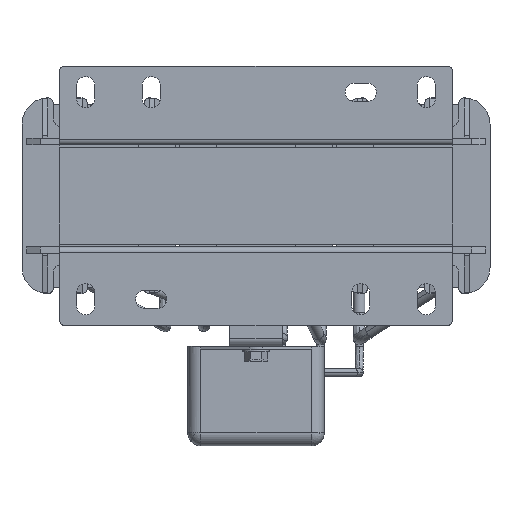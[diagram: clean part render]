
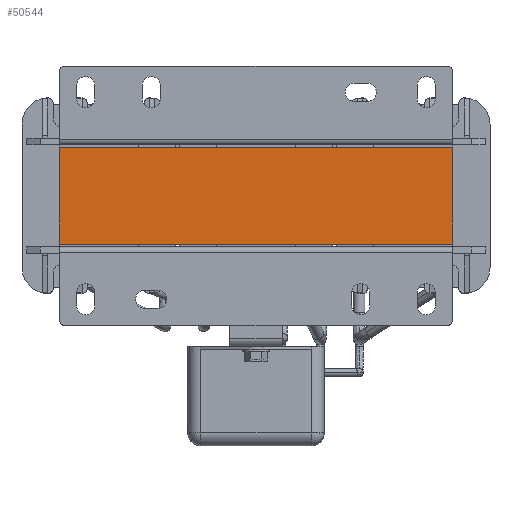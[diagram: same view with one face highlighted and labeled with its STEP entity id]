
A CAD part, front view. The second image highlights one B-rep face of the part: STEP entity #50544.
In plain terms, the highlighted planar face has unit normal (0, -1, 0).
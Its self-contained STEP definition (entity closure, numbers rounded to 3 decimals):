
#1454 = ORIENTED_EDGE ( 'NONE', *, *, #28540, .T. ) ;
#4815 = ORIENTED_EDGE ( 'NONE', *, *, #56409, .F. ) ;
#9922 = FACE_OUTER_BOUND ( 'NONE', #64051, .T. ) ;
#11968 = DIRECTION ( 'NONE',  ( 1., 0., 0. ) ) ;
#13453 = LINE ( 'NONE', #54278, #57118 ) ;
#14762 = VECTOR ( 'NONE', #44213, 1000. ) ;
#18742 = CARTESIAN_POINT ( 'NONE',  ( -75., -76., 37. ) ) ;
#20539 = DIRECTION ( 'NONE',  ( -1., 0., 0. ) ) ;
#21201 = CARTESIAN_POINT ( 'NONE',  ( -75., -76., 37. ) ) ;
#21672 = DIRECTION ( 'NONE',  ( 0., 0., 1. ) ) ;
#22052 = VERTEX_POINT ( 'NONE', #18742 ) ;
#23028 = VERTEX_POINT ( 'NONE', #30481 ) ;
#23102 = VERTEX_POINT ( 'NONE', #36421 ) ;
#23317 = AXIS2_PLACEMENT_3D ( 'NONE', #21201, #35457, #20539 ) ;
#23972 = CARTESIAN_POINT ( 'NONE',  ( 75., -76., 37. ) ) ;
#27630 = LINE ( 'NONE', #63151, #46494 ) ;
#28540 = EDGE_CURVE ( 'NONE', #41814, #23102, #28628, .T. ) ;
#28628 = LINE ( 'NONE', #23972, #14762 ) ;
#29682 = CARTESIAN_POINT ( 'NONE',  ( 75., -76., 0. ) ) ;
#30481 = CARTESIAN_POINT ( 'NONE',  ( -75., -76., 0. ) ) ;
#30821 = PLANE ( 'NONE',  #23317 ) ;
#31221 = ORIENTED_EDGE ( 'NONE', *, *, #43525, .F. ) ;
#33556 = VECTOR ( 'NONE', #11968, 1000. ) ;
#35457 = DIRECTION ( 'NONE',  ( 0., 1., 0. ) ) ;
#36421 = CARTESIAN_POINT ( 'NONE',  ( 75., -76., 37. ) ) ;
#38682 = DIRECTION ( 'NONE',  ( 1., 0., 0. ) ) ;
#41814 = VERTEX_POINT ( 'NONE', #29682 ) ;
#43525 = EDGE_CURVE ( 'NONE', #23028, #22052, #27630, .T. ) ;
#44213 = DIRECTION ( 'NONE',  ( 0., 0., 1. ) ) ;
#44961 = LINE ( 'NONE', #65198, #33556 ) ;
#46494 = VECTOR ( 'NONE', #21672, 1000. ) ;
#49879 = ORIENTED_EDGE ( 'NONE', *, *, #56622, .T. ) ;
#50544 = ADVANCED_FACE ( 'NONE', ( #9922 ), #30821, .F. ) ;
#54278 = CARTESIAN_POINT ( 'NONE',  ( -75., -76., 37. ) ) ;
#56409 = EDGE_CURVE ( 'NONE', #22052, #23102, #13453, .T. ) ;
#56622 = EDGE_CURVE ( 'NONE', #23028, #41814, #44961, .T. ) ;
#57118 = VECTOR ( 'NONE', #38682, 1000. ) ;
#63151 = CARTESIAN_POINT ( 'NONE',  ( -75., -76., 37. ) ) ;
#64051 = EDGE_LOOP ( 'NONE', ( #1454, #4815, #31221, #49879 ) ) ;
#65198 = CARTESIAN_POINT ( 'NONE',  ( 0., -76., 0. ) ) ;
